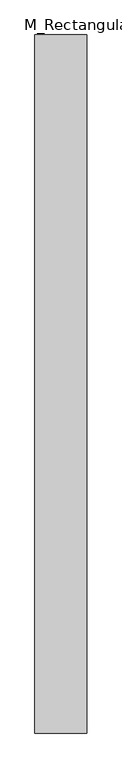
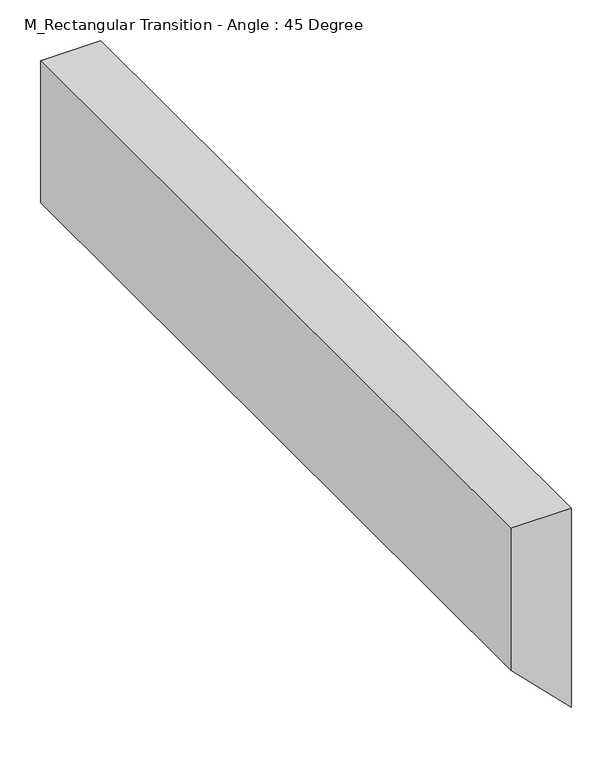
"""IFC4 building model written with IfcOpenShell, lengths in millimetres: duct fitting geometry, M_Rectangular Transition - Angle : 45 Degree."""

from ifc_helpers import new_model, si_unit, frame, origin, place, context, project, spatial, polyline, outline, extrude, source, transform, mapped, element, save


def m_rectangular_transition_angle_45_degree_bb273bf1(model_context):
    return source(origin(), model_context, "Body", "SweptSolid", [
        extrude(outline(polyline([(107.0, 0.0), (-107.0, 0.0), (-192.8556429, 86.1438741), (107.1443571, 86.1438741), (107.0, 0.0)])), frame((0.0, -581.0, 0.0), z_axis=(0.0, 1.0, 0.0), x_axis=(0.0, 0.0, 1.0)), (0.0, 0.0, 1.0), 1162.0),
    ])


if __name__ == "__main__":
    model = new_model("IFC4")
    model_context = context("Model", 3, world=origin())
    ifc_project = project(units=[si_unit("LENGTHUNIT", "METRE", prefix="MILLI")], contexts=[model_context])
    site = spatial("IfcSite", under=ifc_project)
    building = spatial("IfcBuilding", under=site)
    placement = place(None, origin())
    m_rectangular_transition_angle_45_degree_shape = m_rectangular_transition_angle_45_degree_bb273bf1(model_context)
    element("IfcDuctFitting", 1, ObjectType="M_Rectangular Transition - Angle : 45 Degree", at=placement, inside=building, context=model_context, shape_type="MappedRepresentation", body=[
        mapped(m_rectangular_transition_angle_45_degree_shape, transform((0.0, 0.0, 0.0), x_axis=(1.0, 0.0, 0.0), y_axis=(0.0, 1.0, 0.0), z_axis=(0.0, 0.0, 1.0))),
    ])
    save(model, "model.ifc")
